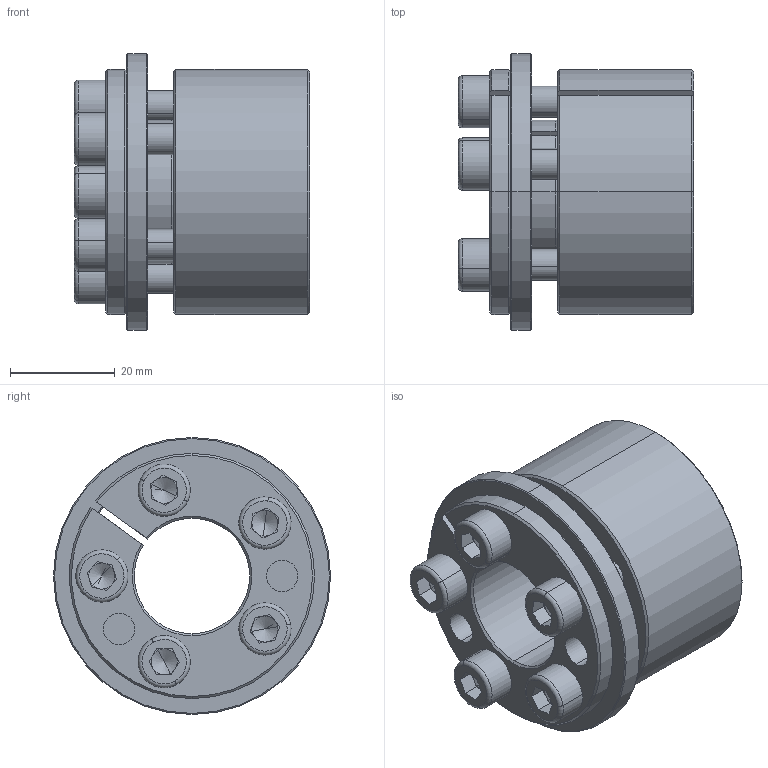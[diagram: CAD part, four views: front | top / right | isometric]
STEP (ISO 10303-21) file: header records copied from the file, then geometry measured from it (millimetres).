
FILE_DESCRIPTION (( 'STEP AP214' ), '1' );
FILE_NAME ('H5×°ÅäÌå22-47.STEP', '2022-07-26T01:53:24', ( '' ), ( '' ), 'SwSTEP 2.0', 'SolidWorks 2022', '' );
FILE_SCHEMA (( 'AUTOMOTIVE_DESIGN' ));
Length unit declared in the file: millimetre
Products named in the file (1): H5蚾饜极22-47
Bounding box: 45 x 53 x 53 mm (x, y, z)
Volume: 47681.9 mm3; surface area: 20410.6 mm2
Topology: 1 solids, 1 shells, 222 faces, 543 edges, 333 vertices
Faces by surface type: plane 85, cone 64, cylinder 63, torus 10
Entity records: 6566 total; most frequent: DIRECTION 1210, CARTESIAN_POINT 1161, ORIENTED_EDGE 1066, EDGE_CURVE 533, AXIS2_PLACEMENT_3D 478, VERTEX_POINT 333, EDGE_LOOP 258, CIRCLE 255
